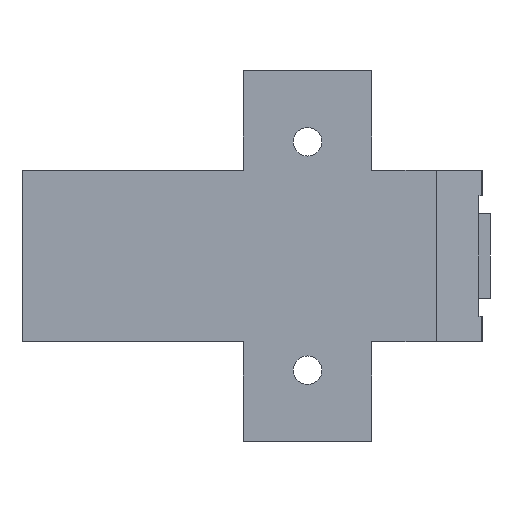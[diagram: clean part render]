
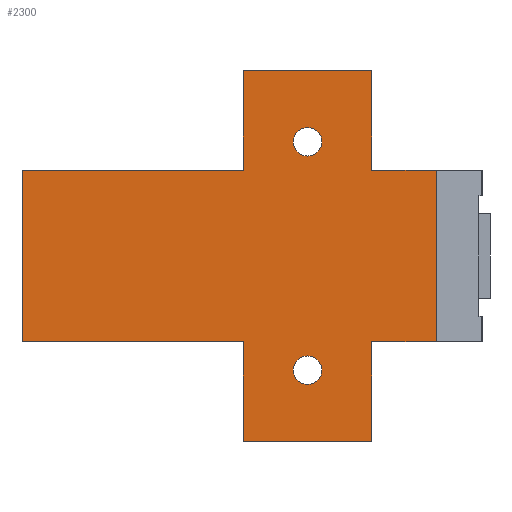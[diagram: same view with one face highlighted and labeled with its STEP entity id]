
A CAD part, left-side view. The second image highlights one B-rep face of the part: STEP entity #2300.
In plain terms, the highlighted planar face has unit normal (-1, 0, 0).
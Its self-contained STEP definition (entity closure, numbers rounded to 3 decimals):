
#16 = VECTOR ( 'NONE', #1527, 1000. ) ;
#35 = AXIS2_PLACEMENT_3D ( 'NONE', #704, #699, #708 ) ;
#44 = VECTOR ( 'NONE', #1521, 1000. ) ;
#97 = VECTOR ( 'NONE', #1505, 1000. ) ;
#123 = CIRCLE ( 'NONE', #301, 2. ) ;
#124 = VECTOR ( 'NONE', #1481, 1000. ) ;
#128 = AXIS2_PLACEMENT_3D ( 'NONE', #3232, #3233, #3234 ) ;
#148 = VECTOR ( 'NONE', #1510, 1000. ) ;
#199 = VECTOR ( 'NONE', #1524, 1000. ) ;
#204 = CIRCLE ( 'NONE', #128, 2. ) ;
#225 = VECTOR ( 'NONE', #1518, 1000. ) ;
#251 = CIRCLE ( 'NONE', #331, 2. ) ;
#276 = VECTOR ( 'NONE', #1515, 1000. ) ;
#301 = AXIS2_PLACEMENT_3D ( 'NONE', #1529, #1530, #1531 ) ;
#306 = CIRCLE ( 'NONE', #376, 2. ) ;
#329 = VECTOR ( 'NONE', #1497, 1000. ) ;
#331 = AXIS2_PLACEMENT_3D ( 'NONE', #1533, #1534, #1535 ) ;
#370 = VECTOR ( 'NONE', #1502, 1000. ) ;
#376 = AXIS2_PLACEMENT_3D ( 'NONE', #3245, #3246, #3247 ) ;
#395 = VECTOR ( 'NONE', #1508, 1000. ) ;
#409 = VECTOR ( 'NONE', #1512, 1000. ) ;
#550 = EDGE_LOOP ( 'NONE', ( #1988, #1989 ) ) ;
#697 = FACE_BOUND ( 'NONE', #1195, .T. ) ;
#699 = DIRECTION ( 'NONE',  ( 1., 0., 0. ) ) ;
#703 = FACE_OUTER_BOUND ( 'NONE', #1181, .T. ) ;
#704 = CARTESIAN_POINT ( 'NONE',  ( 0., -5.007, -12. ) ) ;
#706 = FACE_BOUND ( 'NONE', #550, .T. ) ;
#707 = PLANE ( 'NONE',  #35 ) ;
#708 = DIRECTION ( 'NONE',  ( 0., 0., -1. ) ) ;
#953 = CARTESIAN_POINT ( 'NONE',  ( 0., 13., 18. ) ) ;
#962 = CARTESIAN_POINT ( 'NONE',  ( 0., 13., -14. ) ) ;
#977 = CARTESIAN_POINT ( 'NONE',  ( 0., 13., -18. ) ) ;
#1024 = CARTESIAN_POINT ( 'NONE',  ( 0., 4., 26. ) ) ;
#1025 = CARTESIAN_POINT ( 'NONE',  ( 0., 4., 12. ) ) ;
#1026 = CARTESIAN_POINT ( 'NONE',  ( 0., -5.007, 12. ) ) ;
#1028 = CARTESIAN_POINT ( 'NONE',  ( 0., 4., -12. ) ) ;
#1031 = CARTESIAN_POINT ( 'NONE',  ( 0., 4., -26. ) ) ;
#1033 = CARTESIAN_POINT ( 'NONE',  ( 0., 22., 12. ) ) ;
#1034 = CARTESIAN_POINT ( 'NONE',  ( 0., 22., -26. ) ) ;
#1035 = CARTESIAN_POINT ( 'NONE',  ( 0., 53., 12. ) ) ;
#1037 = CARTESIAN_POINT ( 'NONE',  ( 0., 53., -12. ) ) ;
#1041 = CARTESIAN_POINT ( 'NONE',  ( 0., 22., -12. ) ) ;
#1044 = CARTESIAN_POINT ( 'NONE',  ( 0., 22., 26. ) ) ;
#1056 = CARTESIAN_POINT ( 'NONE',  ( 0., -5.007, -12. ) ) ;
#1099 = CARTESIAN_POINT ( 'NONE',  ( 0., 13., 14. ) ) ;
#1181 = EDGE_LOOP ( 'NONE', ( #1974, #1975, #1976, #1977, #1978, #1979, #1980, #1981, #1982, #1983, #1984, #1985 ) ) ;
#1195 = EDGE_LOOP ( 'NONE', ( #1986, #1987 ) ) ;
#1334 = EDGE_CURVE ( 'NONE', #2675, #2848, #204, .T. ) ;
#1338 = EDGE_CURVE ( 'NONE', #2702, #2687, #306, .T. ) ;
#1479 = LINE ( 'NONE', #1480, #124 ) ;
#1480 = CARTESIAN_POINT ( 'NONE',  ( 0., -5.007, -12. ) ) ;
#1481 = DIRECTION ( 'NONE',  ( 0., 1., 0. ) ) ;
#1486 = LINE ( 'NONE', #1495, #329 ) ;
#1493 = LINE ( 'NONE', #1501, #370 ) ;
#1495 = CARTESIAN_POINT ( 'NONE',  ( 0., -5.007, 12. ) ) ;
#1496 = LINE ( 'NONE', #1509, #148 ) ;
#1497 = DIRECTION ( 'NONE',  ( 0., 1., 0. ) ) ;
#1499 = LINE ( 'NONE', #1511, #409 ) ;
#1501 = CARTESIAN_POINT ( 'NONE',  ( 0., 22., -26. ) ) ;
#1502 = DIRECTION ( 'NONE',  ( 0., 0., 1. ) ) ;
#1503 = LINE ( 'NONE', #1504, #97 ) ;
#1504 = CARTESIAN_POINT ( 'NONE',  ( 0., 53., -12. ) ) ;
#1505 = DIRECTION ( 'NONE',  ( 0., 0., 1. ) ) ;
#1506 = LINE ( 'NONE', #1507, #395 ) ;
#1507 = CARTESIAN_POINT ( 'NONE',  ( 0., 22., -26. ) ) ;
#1508 = DIRECTION ( 'NONE',  ( 0., 0., 1. ) ) ;
#1509 = CARTESIAN_POINT ( 'NONE',  ( 0., 4., -26. ) ) ;
#1510 = DIRECTION ( 'NONE',  ( 0., 1., 0. ) ) ;
#1511 = CARTESIAN_POINT ( 'NONE',  ( 0., 4., -26. ) ) ;
#1512 = DIRECTION ( 'NONE',  ( 0., 0., 1. ) ) ;
#1513 = LINE ( 'NONE', #1514, #276 ) ;
#1514 = CARTESIAN_POINT ( 'NONE',  ( 0., -5.007, -12. ) ) ;
#1515 = DIRECTION ( 'NONE',  ( 0., 1., 0. ) ) ;
#1516 = LINE ( 'NONE', #1517, #225 ) ;
#1517 = CARTESIAN_POINT ( 'NONE',  ( 0., -5.007, -12. ) ) ;
#1518 = DIRECTION ( 'NONE',  ( 0., 0., 1. ) ) ;
#1519 = LINE ( 'NONE', #1520, #44 ) ;
#1520 = CARTESIAN_POINT ( 'NONE',  ( 0., -5.007, 12. ) ) ;
#1521 = DIRECTION ( 'NONE',  ( 0., 1., 0. ) ) ;
#1522 = LINE ( 'NONE', #1523, #199 ) ;
#1523 = CARTESIAN_POINT ( 'NONE',  ( 0., 4., -26. ) ) ;
#1524 = DIRECTION ( 'NONE',  ( 0., 0., 1. ) ) ;
#1525 = LINE ( 'NONE', #1526, #16 ) ;
#1526 = CARTESIAN_POINT ( 'NONE',  ( 0., 4., 26. ) ) ;
#1527 = DIRECTION ( 'NONE',  ( 0., 1., 0. ) ) ;
#1529 = CARTESIAN_POINT ( 'NONE',  ( 0., 13., 16. ) ) ;
#1530 = DIRECTION ( 'NONE',  ( 1., 0., 0. ) ) ;
#1531 = DIRECTION ( 'NONE',  ( 0., 0., -1. ) ) ;
#1533 = CARTESIAN_POINT ( 'NONE',  ( 0., 13., -16. ) ) ;
#1534 = DIRECTION ( 'NONE',  ( -1., 0., 0. ) ) ;
#1535 = DIRECTION ( 'NONE',  ( 0., 0., 1. ) ) ;
#1974 = ORIENTED_EDGE ( 'NONE', *, *, #2136, .F. ) ;
#1975 = ORIENTED_EDGE ( 'NONE', *, *, #2134, .T. ) ;
#1976 = ORIENTED_EDGE ( 'NONE', *, *, #2137, .F. ) ;
#1977 = ORIENTED_EDGE ( 'NONE', *, *, #2129, .F. ) ;
#1978 = ORIENTED_EDGE ( 'NONE', *, *, #2138, .F. ) ;
#1979 = ORIENTED_EDGE ( 'NONE', *, *, #2139, .F. ) ;
#1980 = ORIENTED_EDGE ( 'NONE', *, *, #2140, .T. ) ;
#1981 = ORIENTED_EDGE ( 'NONE', *, *, #2141, .F. ) ;
#1982 = ORIENTED_EDGE ( 'NONE', *, *, #2142, .T. ) ;
#1983 = ORIENTED_EDGE ( 'NONE', *, *, #2143, .T. ) ;
#1984 = ORIENTED_EDGE ( 'NONE', *, *, #2144, .T. ) ;
#1985 = ORIENTED_EDGE ( 'NONE', *, *, #2145, .T. ) ;
#1986 = ORIENTED_EDGE ( 'NONE', *, *, #2146, .T. ) ;
#1987 = ORIENTED_EDGE ( 'NONE', *, *, #1334, .T. ) ;
#1988 = ORIENTED_EDGE ( 'NONE', *, *, #1338, .F. ) ;
#1989 = ORIENTED_EDGE ( 'NONE', *, *, #2147, .F. ) ;
#2129 = EDGE_CURVE ( 'NONE', #2783, #2779, #1479, .T. ) ;
#2134 = EDGE_CURVE ( 'NONE', #2775, #2777, #1486, .T. ) ;
#2136 = EDGE_CURVE ( 'NONE', #2775, #2786, #1493, .T. ) ;
#2137 = EDGE_CURVE ( 'NONE', #2779, #2777, #1503, .T. ) ;
#2138 = EDGE_CURVE ( 'NONE', #2776, #2783, #1506, .T. ) ;
#2139 = EDGE_CURVE ( 'NONE', #2773, #2776, #1496, .T. ) ;
#2140 = EDGE_CURVE ( 'NONE', #2773, #2770, #1499, .T. ) ;
#2141 = EDGE_CURVE ( 'NONE', #2798, #2770, #1513, .T. ) ;
#2142 = EDGE_CURVE ( 'NONE', #2798, #2768, #1516, .T. ) ;
#2143 = EDGE_CURVE ( 'NONE', #2768, #2767, #1519, .T. ) ;
#2144 = EDGE_CURVE ( 'NONE', #2767, #2766, #1522, .T. ) ;
#2145 = EDGE_CURVE ( 'NONE', #2766, #2786, #1525, .T. ) ;
#2146 = EDGE_CURVE ( 'NONE', #2848, #2675, #123, .T. ) ;
#2147 = EDGE_CURVE ( 'NONE', #2687, #2702, #251, .T. ) ;
#2300 = ADVANCED_FACE ( 'NONE', ( #703, #697, #706 ), #707, .F. ) ;
#2675 = VERTEX_POINT ( 'NONE', #953 ) ;
#2687 = VERTEX_POINT ( 'NONE', #962 ) ;
#2702 = VERTEX_POINT ( 'NONE', #977 ) ;
#2766 = VERTEX_POINT ( 'NONE', #1024 ) ;
#2767 = VERTEX_POINT ( 'NONE', #1025 ) ;
#2768 = VERTEX_POINT ( 'NONE', #1026 ) ;
#2770 = VERTEX_POINT ( 'NONE', #1028 ) ;
#2773 = VERTEX_POINT ( 'NONE', #1031 ) ;
#2775 = VERTEX_POINT ( 'NONE', #1033 ) ;
#2776 = VERTEX_POINT ( 'NONE', #1034 ) ;
#2777 = VERTEX_POINT ( 'NONE', #1035 ) ;
#2779 = VERTEX_POINT ( 'NONE', #1037 ) ;
#2783 = VERTEX_POINT ( 'NONE', #1041 ) ;
#2786 = VERTEX_POINT ( 'NONE', #1044 ) ;
#2798 = VERTEX_POINT ( 'NONE', #1056 ) ;
#2848 = VERTEX_POINT ( 'NONE', #1099 ) ;
#3232 = CARTESIAN_POINT ( 'NONE',  ( 0., 13., 16. ) ) ;
#3233 = DIRECTION ( 'NONE',  ( 1., 0., 0. ) ) ;
#3234 = DIRECTION ( 'NONE',  ( 0., 0., -1. ) ) ;
#3245 = CARTESIAN_POINT ( 'NONE',  ( 0., 13., -16. ) ) ;
#3246 = DIRECTION ( 'NONE',  ( -1., 0., 0. ) ) ;
#3247 = DIRECTION ( 'NONE',  ( 0., 0., 1. ) ) ;
